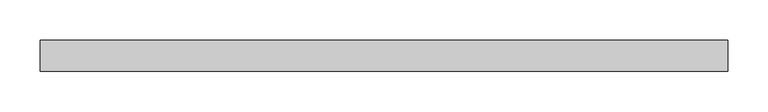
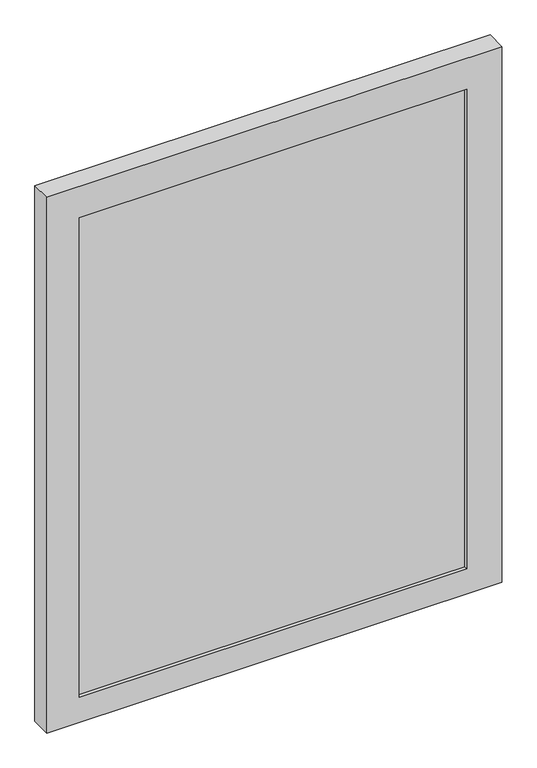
"""IFC4 building model written with IfcOpenShell, lengths in millimetres: furniture geometry, Espejo : Espejo."""

from ifc_helpers import new_model, si_unit, frame, origin, place, context, project, spatial, polyline, outline, extrude, source, transform, mapped, element, save


def furniture_2635d5df(model_context):
    return source(origin(), model_context, "Body", "SweptSolid", [
        extrude(outline(polyline([(4587.1992269, 3028.2300983), (3863.2209239, 3028.2300983), (3863.2209239, 3059.1622023), (4587.1992269, 3059.1622023), (4587.1992269, 3028.2300983)])), frame((0.0, 0.0, 2679.4365639), z_axis=(0.0, 0.0, 1.0), x_axis=(1.0, 0.0, 0.0)), (0.0, 0.0, 1.0), 946.9795769),
        extrude(outline(polyline([(2630.0, 3802.772648), (2630.0, 4652.772648), (3687.7722455, 4652.772648), (3687.7722455, 3802.772648), (2630.0, 3802.772648)]), holes=[polyline([(2679.6153259, 4587.1992269), (2679.6153259, 3863.2209239), (3626.4161407, 3863.2209239), (3626.4161407, 4587.1992269), (2679.6153259, 4587.1992269)])]), frame((0.0, 3021.2166309, 0.0), z_axis=(0.0, 1.0, 0.0), x_axis=(0.0, 0.0, 1.0)), (0.0, 0.0, 1.0), 37.9455714),
    ])


if __name__ == "__main__":
    model = new_model("IFC4")
    model_context = context("Model", 3, world=origin())
    ifc_project = project(units=[si_unit("LENGTHUNIT", "METRE", prefix="MILLI")], contexts=[model_context])
    site = spatial("IfcSite", under=ifc_project)
    building = spatial("IfcBuilding", under=site)
    placement = place(None, origin())
    furniture_shape = furniture_2635d5df(model_context)
    element("IfcFurniture", 1, ObjectType="Espejo : Espejo", at=placement, inside=building, context=model_context, shape_type="MappedRepresentation", body=[
        mapped(furniture_shape, transform((0.0, 0.0, 0.0), x_axis=(1.0, 0.0, 0.0), y_axis=(0.0, 1.0, 0.0), z_axis=(0.0, 0.0, 1.0))),
    ])
    save(model, "model.ifc")
